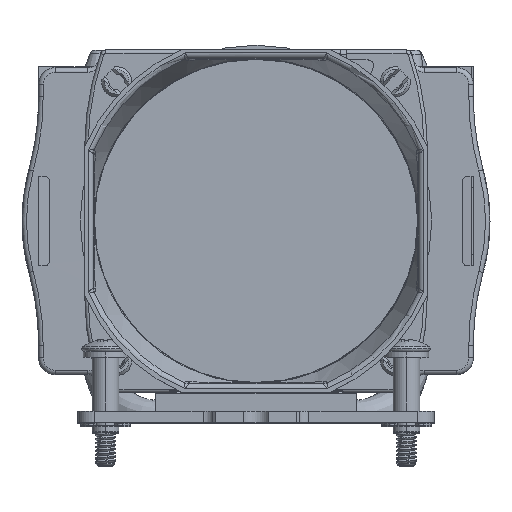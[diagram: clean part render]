
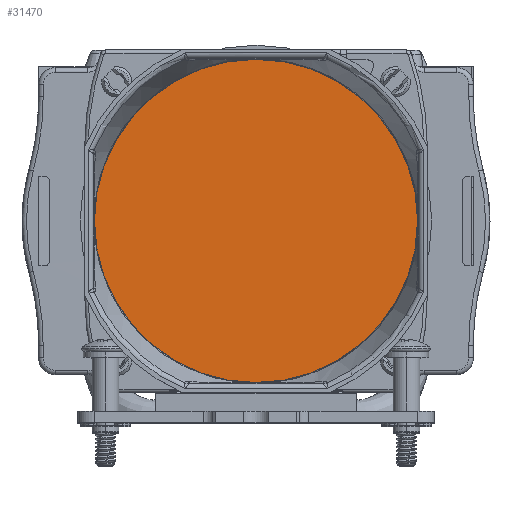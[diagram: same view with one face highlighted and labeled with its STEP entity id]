
A CAD part, top view. The second image highlights one B-rep face of the part: STEP entity #31470.
In plain terms, the highlighted planar face has unit normal (0, 0, 1) as drawn and (-1, 0, 0) by its records, which use the part's own axes.
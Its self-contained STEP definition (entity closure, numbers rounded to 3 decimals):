
#31299=CARTESIAN_POINT('',(-24.7,0.,-0.005));
#31300=DIRECTION('',(-1.,0.,0.));
#31301=DIRECTION('',(0.,-1.,0.));
#31302=AXIS2_PLACEMENT_3D('',#31299,#31300,#31301);
#31304=CARTESIAN_POINT('',(-24.7,0.,-0.005));
#31305=DIRECTION('',(-1.,0.,0.));
#31306=DIRECTION('',(0.,1.,0.));
#31307=AXIS2_PLACEMENT_3D('',#31304,#31305,#31306);
#31313=CARTESIAN_POINT('',(-24.7,-29.,-0.005));
#31314=CARTESIAN_POINT('',(-24.7,29.,-0.005));
#31315=VERTEX_POINT('',#31313);
#31316=VERTEX_POINT('',#31314);
#31461=CARTESIAN_POINT('',(-24.7,0.,0.));
#31462=DIRECTION('',(-1.,0.,0.));
#31463=DIRECTION('',(0.,-1.,0.));
#31464=AXIS2_PLACEMENT_3D('',#31461,#31462,#31463);
#31465=PLANE('',#31464);
#31466=ORIENTED_EDGE('',*,*,#31369,.F.);
#31467=ORIENTED_EDGE('',*,*,#31413,.F.);
#31468=EDGE_LOOP('',(#31466,#31467));
#31469=FACE_OUTER_BOUND('',#31468,.F.);
#31470=ADVANCED_FACE('',(#31469),#31465,.T.);
#31303=CIRCLE('',#31302,29.);
#31308=CIRCLE('',#31307,29.);
#31369=EDGE_CURVE('',#31315,#31316,#31303,.T.);
#31413=EDGE_CURVE('',#31316,#31315,#31308,.T.);
